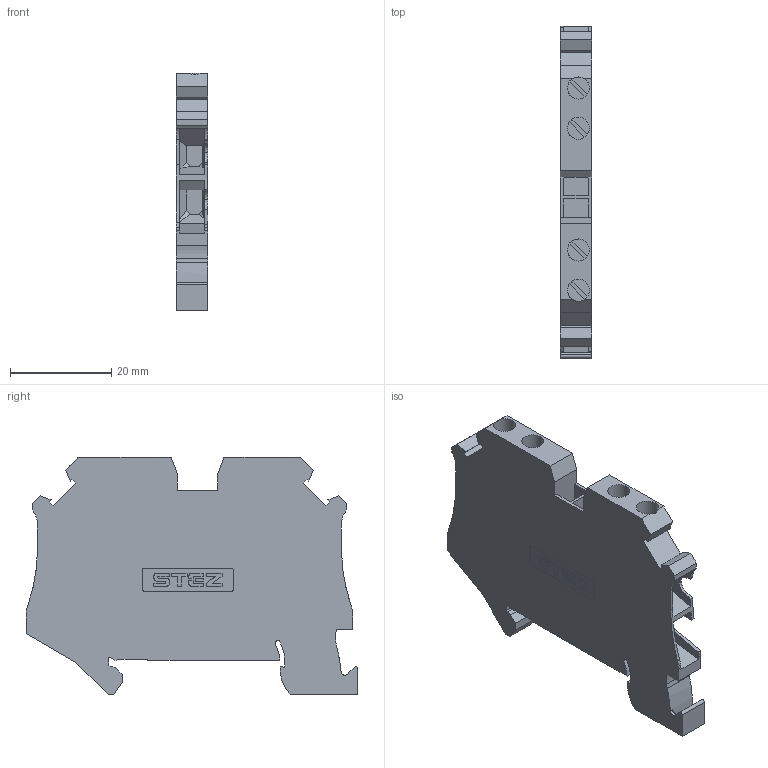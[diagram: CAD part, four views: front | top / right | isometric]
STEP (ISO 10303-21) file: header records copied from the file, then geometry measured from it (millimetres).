
FILE_DESCRIPTION(('TFLEX Exchange Step'),'2;1');
FILE_NAME('11000090_КНВ_4-4.stp', '2024-05-02T10:31:56+03:00',('apanin'),('Unknown organisation'),'TFLEX Exchange 2023.2','T-FLEX CAD','Unknown authorisation');
FILE_SCHEMA( ('AUTOMOTIVE_DESIGN { 1 0 10303 214 1 1 1 1 }') );
Length unit declared in the file: millimetre
Products named in the file (1): Тело_1 - UT4_QUATTRO-select:1
Bounding box: 6.15 x 65.4 x 46.85 mm (x, y, z)
Volume: 11912.9 mm3; surface area: 8205.6 mm2
Topology: 1 solids, 1 shells, 428 faces, 1242 edges, 825 vertices
Faces by surface type: plane 226, cylinder 202
Full cylindrical faces by diameter (mm): 4.35 x4
Entity records: 14301 total; most frequent: DIRECTION 2528, CARTESIAN_POINT 2504, ORIENTED_EDGE 2484, EDGE_CURVE 1242, AXIS2_PLACEMENT_3D 861, VERTEX_POINT 825, VECTOR 806, LINE 806
